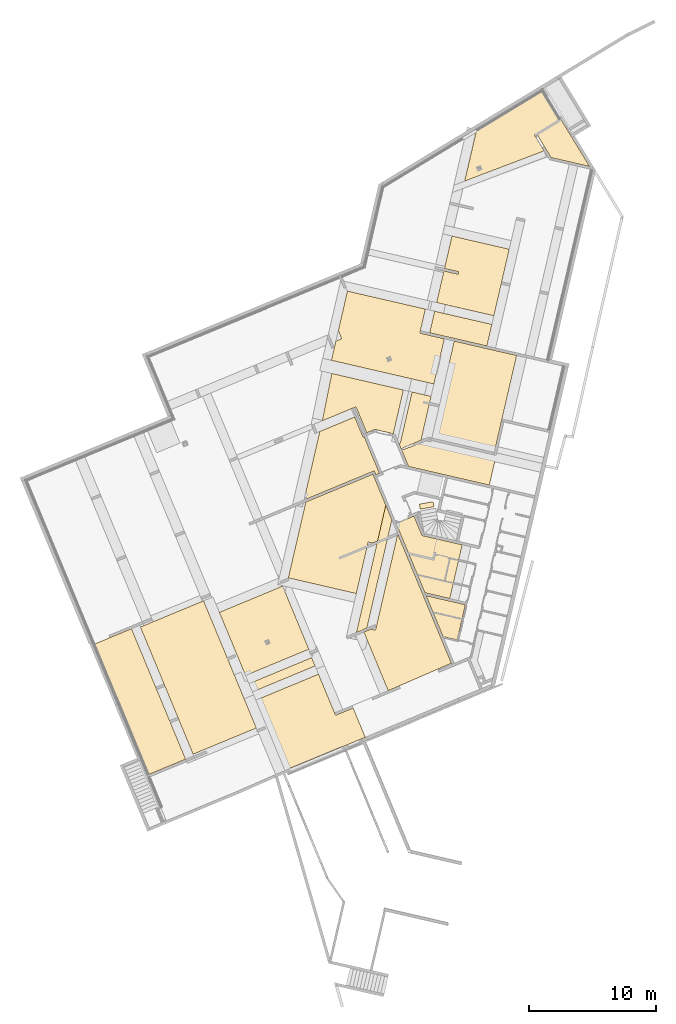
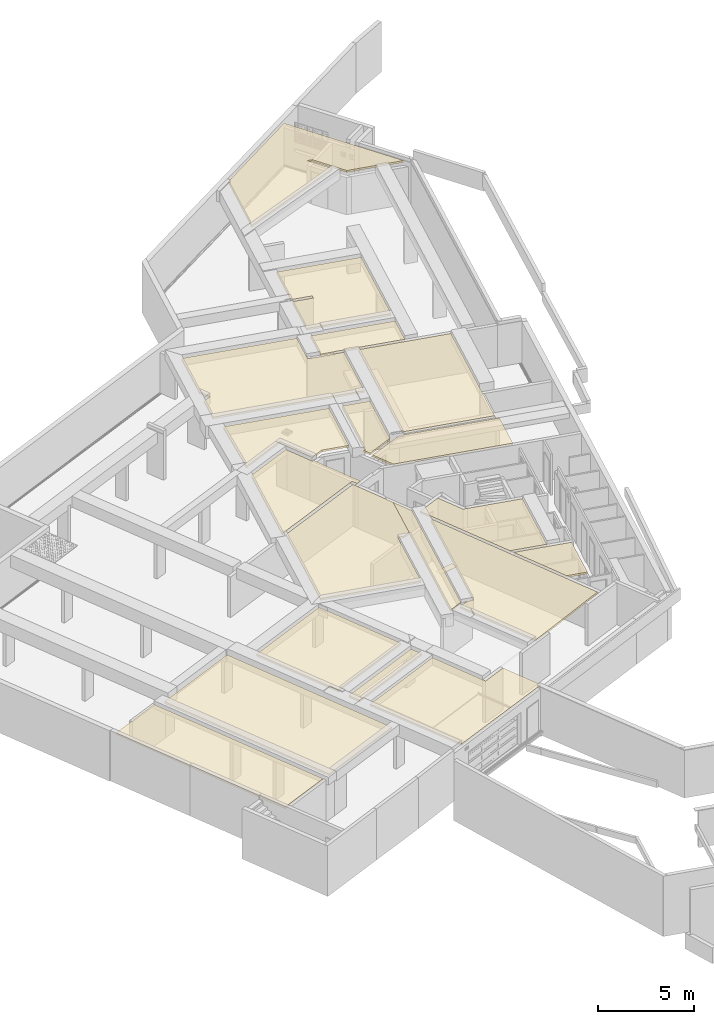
# One storey, part 13 of 20: 20 coverings.
"""IFC2X3 building model written with IfcOpenShell, lengths in metres."""

from ifc_helpers import new_model, entity, si_unit, converted_unit, derived_unit, money_unit, direction, frame, origin_with_axes, place, context, subcontext, project, spatial, faceted_brep, source, transform, mapped, material, type_object, element, save


model = new_model("IFC2X3")

# Units and contexts
model_context = context("Model", 3, precision=1e-05, world=origin_with_axes(), true_north=direction((0.0, 1.0)))
body_context = subcontext(model_context, "Body", "Model", "MODEL_VIEW")
ifc_project = project(units=[si_unit("LENGTHUNIT", "METRE"), si_unit("AREAUNIT", "SQUARE_METRE"), si_unit("VOLUMEUNIT", "CUBIC_METRE"), converted_unit("PLANEANGLEUNIT", "DEGREE", entity("IfcPlaneAngleMeasure", 0.0174532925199), si_unit("PLANEANGLEUNIT", "RADIAN"), dimensions=[0, 0, 0, 0, 0, 0, 0]), si_unit("SOLIDANGLEUNIT", "STERADIAN"), money_unit("EUR"), converted_unit("TIMEUNIT", "Year", entity("IfcTimeMeasure", 31556926.0), si_unit("TIMEUNIT", "SECOND"), dimensions=[0, 0, 1, 0, 0, 0, 0]), si_unit("MASSUNIT", "GRAM", prefix="KILO"), si_unit("THERMODYNAMICTEMPERATUREUNIT", "DEGREE_CELSIUS"), si_unit("LUMINOUSINTENSITYUNIT", "LUMEN"), si_unit("ENERGYUNIT", "JOULE", prefix="MEGA"), derived_unit("THERMALCONDUCTANCEUNIT", [(si_unit("POWERUNIT", "WATT"), 1), (si_unit("LENGTHUNIT", "METRE"), -1), (si_unit("THERMODYNAMICTEMPERATUREUNIT", "KELVIN"), -1)]), derived_unit("SPECIFICHEATCAPACITYUNIT", [(si_unit("ENERGYUNIT", "JOULE"), 1), (si_unit("MASSUNIT", "GRAM", prefix="KILO"), -1), (si_unit("THERMODYNAMICTEMPERATUREUNIT", "KELVIN"), -1)]), derived_unit("MASSDENSITYUNIT", [(si_unit("MASSUNIT", "GRAM", prefix="KILO"), 1), (si_unit("VOLUMEUNIT", "CUBIC_METRE"), -1)])], contexts=[model_context])

# Site, building, storey
site_placement = place(None, origin_with_axes())
site = spatial("IfcSite", under=ifc_project, at=site_placement, Name="Site", CompositionType="ELEMENT")
building_placement = place(site_placement, origin_with_axes())
building = spatial("IfcBuilding", under=site, at=building_placement, Name="Bâtiment", CompositionType="ELEMENT")
storey_placement = place(building_placement, frame((0.0, 0.0, -2.9), z_axis=(0.0, 0.0, 1.0), x_axis=(1.0, 0.0, 0.0)))
storey = spatial("IfcBuildingStorey", under=building, at=storey_placement, Name="Sous-sol", CompositionType="ELEMENT", Elevation=-2.9)

# Coverings
ifc_material_1 = material(Name="Plastique - PVC")
covering_type_1 = type_object("IfcCoveringType", Name="Bande Podotactile", PredefinedType="FLOORING")
shared_shape = source(origin_with_axes(), body_context, "Body", "Brep", [
    faceted_brep([(0.0, 0.4, 0.0), (0.0, 0.0, 0.0), (0.0, 0.0, 0.005), (0.0, 0.4, 0.005), (1.1, 0.4, 0.0), (1.1, 0.0, 0.0), (1.1, 0.0, 0.005), (1.1, 0.4, 0.005)], [[[0, 1, 2, 3]], [[0, 4, 5, 1]], [[1, 5, 6, 2]], [[3, 2, 6, 7]], [[4, 0, 3, 7]], [[5, 4, 7, 6]]]),
])
covering_1_placement = place(storey_placement, frame((-8.35538350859, -6.75943204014, -2.72), z_axis=(0.0, 0.0, 1.0), x_axis=(-0.984343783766, -0.176259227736, 0.0)))
element("IfcCovering", 1, at=covering_1_placement, inside=storey, type_object=covering_type_1, material=ifc_material_1, Name="Bande podotactile", PredefinedType="FLOORING", context=body_context, shape_type="MappedRepresentation", body=[
    mapped(shared_shape, transform((0.0, 0.0, 0.0))),
])
ifc_material_2 = material(Name="Isolation - FLOCAGE")
covering_type_2 = type_object("IfcCoveringType", Name="Isolation - FLOCAGE 120", PredefinedType="CEILING")
covering_2_placement = place(storey_placement, frame((0.267679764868, 25.7416892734, 2.67), z_axis=(0.0, 0.0, 1.0), x_axis=(1.0, 0.0, 0.0)))
element("IfcCovering", 2, at=covering_2_placement, inside=storey, type_object=covering_type_2, material=ifc_material_2, Name="Flocage thermique 120mm", PredefinedType="CEILING", context=body_context, shape_type="Brep", body=[
    faceted_brep([(0.0, 0.0, 0.0), (0.0, 0.0, -0.12), (-5.18237237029, -3.14982905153, -0.12), (-5.18237237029, -3.14982905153, 0.0), (3.70852969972, -6.08234171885, 0.0), (3.70852969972, -6.08234171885, -0.12), (0.675984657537, -5.382468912, -0.12), (-0.392515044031, -3.62448038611, -0.12), (-0.667300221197, -3.55744974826, -0.12), (0.127738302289, -4.85450101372, -0.12), (-6.13418710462, -7.23846431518, -0.12), (-6.13418710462, -7.23846431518, 0.0), (0.127738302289, -4.85450101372, 0.0), (-0.667300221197, -3.55744974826, 0.0), (-0.392515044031, -3.62448038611, 0.0), (0.675984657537, -5.382468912, 0.0)], [[[0, 1, 2, 3]], [[4, 5, 1, 0]], [[2, 1, 5, 6, 7, 8, 9, 10]], [[3, 2, 10, 11]], [[4, 0, 3, 11, 12, 13, 14, 15]], [[15, 6, 5, 4]], [[14, 7, 6, 15]], [[13, 8, 7, 14]], [[12, 9, 8, 13]], [[11, 10, 9, 12]]]),
])
covering_3_placement = place(storey_placement, frame((-26.4422158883, -14.5712068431, 2.52), z_axis=(0.0, 0.0, 1.0), x_axis=(1.0, 0.0, 0.0)))
element("IfcCovering", 3, at=covering_3_placement, inside=storey, type_object=covering_type_2, material=ifc_material_2, Name="Flocage thermique 120mm", PredefinedType="CEILING", context=body_context, shape_type="Brep", body=[
    faceted_brep([(0.0, 0.0, 0.0), (0.0, 0.0, -0.12), (-4.98057347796, -2.06573208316, -0.12), (-4.98057347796, -2.06573208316, 0.0), (4.15614411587, -10.0206514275, 0.0), (4.15614411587, -10.0206514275, -0.12), (-0.824429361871, -12.0863835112, -0.12), (-0.824429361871, -12.0863835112, 0.0)], [[[0, 1, 2, 3]], [[4, 5, 1, 0]], [[1, 5, 6, 2]], [[3, 2, 6, 7]], [[4, 0, 3, 7]], [[7, 6, 5, 4]]]),
])
covering_4_placement = place(storey_placement, frame((-32.1255502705, -16.7696899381, 2.67), z_axis=(0.0, 0.0, 1.0), x_axis=(1.0, 0.0, 0.0)))
element("IfcCovering", 4, at=covering_4_placement, inside=storey, type_object=covering_type_2, material=ifc_material_2, Name="Flocage thermique 120mm", PredefinedType="CEILING", context=body_context, shape_type="Brep", body=[
    faceted_brep([(0.0, 0.0, 0.0), (0.0, 0.0, -0.12), (-3.00944598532, -1.24819142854, -0.12), (-3.00944598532, -1.24819142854, 0.0), (4.26423077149, -10.2812532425, 0.0), (4.26423077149, -10.2812532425, -0.12), (1.26402180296, -11.5256135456, -0.12), (1.26402180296, -11.5256135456, 0.0)], [[[0, 1, 2, 3]], [[4, 5, 1, 0]], [[2, 1, 5, 6]], [[3, 2, 6, 7]], [[4, 0, 3, 7]], [[7, 6, 5, 4]]]),
])
covering_5_placement = place(storey_placement, frame((-25.1990074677, -15.4804793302, 2.67), z_axis=(0.0, 0.0, 1.0), x_axis=(1.0, 0.0, 0.0)))
element("IfcCovering", 5, at=covering_5_placement, inside=storey, type_object=covering_type_2, material=ifc_material_2, Name="Flocage thermique 120mm", PredefinedType="CEILING", context=body_context, shape_type="Brep", body=[
    faceted_brep([(0.0, 0.0, 0.0), (0.0, 0.0, -0.12), (2.06241103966, -4.97256629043, -0.12), (2.06241103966, -4.97256629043, 0.0), (4.98946551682, 2.06942012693, 0.0), (4.98946551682, 2.06942012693, -0.12), (7.05187652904, -2.90314609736, -0.12), (7.05187652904, -2.90314609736, 0.0)], [[[0, 1, 2, 3]], [[4, 5, 1, 0]], [[2, 1, 5, 6]], [[3, 2, 6, 7]], [[4, 0, 3, 7]], [[7, 6, 5, 4]]]),
])
covering_6_placement = place(storey_placement, frame((-22.8684176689, -21.0996367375, 2.62), z_axis=(0.0, 0.0, 1.0), x_axis=(1.0, 0.0, 0.0)))
element("IfcCovering", 6, at=covering_6_placement, inside=storey, type_object=covering_type_2, material=ifc_material_2, Name="Flocage thermique 120mm", PredefinedType="CEILING", context=body_context, shape_type="Brep", body=[
    faceted_brep([(0.0, 0.0, 0.0), (0.0, 0.0, -0.12), (0.271090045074, -0.653610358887, -0.12), (0.271090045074, -0.653610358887, 0.0), (4.94328042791, 2.05026451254, 0.0), (4.94328042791, 2.05026451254, -0.12), (5.21437047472, 1.39665414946, -0.12), (5.21437047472, 1.39665414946, 0.0)], [[[0, 1, 2, 3]], [[4, 5, 1, 0]], [[2, 1, 5, 6]], [[3, 2, 6, 7]], [[4, 0, 3, 7]], [[7, 6, 5, 4]]]),
])
covering_7_placement = place(storey_placement, frame((-22.329148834, -22.399838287, 2.67), z_axis=(0.0, 0.0, 1.0), x_axis=(1.0, 0.0, 0.0)))
element("IfcCovering", 7, at=covering_7_placement, inside=storey, type_object=covering_type_2, material=ifc_material_2, Name="Flocage thermique 120mm", PredefinedType="CEILING", context=body_context, shape_type="Brep", body=[
    faceted_brep([(0.0, 0.0, 0.0), (0.0, 0.0, -0.12), (2.35157824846, -5.52886098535, -0.12), (2.35157824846, -5.52886098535, 0.0), (4.94328040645, 2.05026456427, 0.0), (4.94328040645, 2.05026456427, -0.12), (6.28573869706, -1.190635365, -0.12), (7.67129120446, -0.615966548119, -0.12), (8.62853499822, -2.92392462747, -0.12), (8.62853499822, -2.92392462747, 0.0), (7.67129120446, -0.615966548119, 0.0), (6.28573869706, -1.190635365, 0.0)], [[[0, 1, 2, 3]], [[4, 5, 1, 0]], [[2, 1, 5, 6, 7, 8]], [[3, 2, 8, 9]], [[4, 0, 3, 9, 10, 11]], [[11, 6, 5, 4]], [[10, 7, 6, 11]], [[9, 8, 7, 10]]]),
])
covering_8_placement = place(storey_placement, frame((-19.7658096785, -12.7625850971, 2.67), z_axis=(0.0, 0.0, 1.0), x_axis=(1.0, 0.0, 0.0)))
element("IfcCovering", 8, at=covering_8_placement, inside=storey, type_object=covering_type_2, material=ifc_material_2, Name="Flocage thermique 120mm", PredefinedType="CEILING", context=body_context, shape_type="Brep", body=[
    faceted_brep([(0.0, 0.0, 0.0), (0.0, 0.0, -0.12), (5.35969781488, -1.23695005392, -0.12), (5.35969781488, -1.23695005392, 0.0), (1.37977713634, 5.97856678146, 0.0), (1.37977713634, 5.97856678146, -0.12), (6.67025166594, 8.17283276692, -0.12), (7.68524177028, 5.72564572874, -0.12), (7.03575549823, 2.9114252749, -0.12), (6.63853295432, 2.74667409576, -0.12), (6.29749738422, 2.82538076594, -0.12), (6.29749738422, 2.82538076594, 0.0), (6.63853295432, 2.74667409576, 0.0), (7.03575549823, 2.9114252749, 0.0), (7.68524177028, 5.72564572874, 0.0), (6.67025166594, 8.17283276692, 0.0)], [[[0, 1, 2, 3]], [[4, 5, 1, 0]], [[2, 1, 5, 6, 7, 8, 9, 10]], [[3, 2, 10, 11]], [[4, 0, 3, 11, 12, 13, 14, 15]], [[15, 6, 5, 4]], [[14, 7, 6, 15]], [[13, 8, 7, 14]], [[12, 9, 8, 13]], [[11, 10, 9, 12]]]),
])
covering_9_placement = place(storey_placement, frame((-17.2834219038, -1.22344633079, 2.67), z_axis=(0.0, 0.0, 1.0), x_axis=(1.0, 0.0, 0.0)))
element("IfcCovering", 9, at=covering_9_placement, inside=storey, type_object=covering_type_2, material=ifc_material_2, Name="Flocage thermique 120mm", PredefinedType="CEILING", context=body_context, shape_type="Brep", body=[
    faceted_brep([(0.0, 0.0, 0.0), (0.0, 0.0, -0.12), (-1.24717719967, -5.40401198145, -0.12), (-1.24717719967, -5.40401198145, 0.0), (2.75269632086, 1.13608815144, 0.0), (2.75269632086, 1.13608815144, -0.12), (3.40893871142, -0.446141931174, -0.12), (3.49978453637, -0.408462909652, -0.12), (4.69822462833, -3.29795617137, -0.12), (4.42332478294, -3.41197304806, -0.12), (4.29598171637, -3.10494315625, -0.12), (4.29598171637, -3.10494315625, 0.0), (4.42332478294, -3.41197304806, 0.0), (4.69822462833, -3.29795617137, 0.0), (3.49978453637, -0.408462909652, 0.0), (3.40893871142, -0.446141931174, 0.0)], [[[0, 1, 2, 3]], [[4, 5, 1, 0]], [[2, 1, 5, 6, 7, 8, 9, 10]], [[3, 2, 10, 11]], [[4, 0, 3, 11, 12, 13, 14, 15]], [[15, 6, 5, 4]], [[14, 7, 6, 15]], [[13, 8, 7, 14]], [[12, 9, 8, 13]], [[11, 10, 9, 12]]]),
])
covering_10_placement = place(storey_placement, frame((-16.3364479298, 3.34596619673, 2.67), z_axis=(0.0, 0.0, 1.0), x_axis=(1.0, 0.0, 0.0)))
element("IfcCovering", 10, at=covering_10_placement, inside=storey, type_object=covering_type_2, material=ifc_material_2, Name="Flocage thermique 120mm", PredefinedType="CEILING", context=body_context, shape_type="Brep", body=[
    faceted_brep([(0.0, 0.0, 0.0), (0.0, 0.0, -0.12), (-0.753565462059, -3.73137450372, -0.12), (-0.753565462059, -3.73137450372, 0.0), (5.64007749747, -1.30165811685, 0.0), (5.64007749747, -1.30165811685, -0.12), (4.84404779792, -4.75085043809, -0.12), (3.40277783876, -4.40976401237, -0.12), (2.75515530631, -4.67837056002, -0.12), (1.90752365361, -2.62766682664, -0.12), (1.90752365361, -2.62766682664, 0.0), (2.75515530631, -4.67837056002, 0.0), (3.40277783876, -4.40976401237, 0.0), (4.84404779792, -4.75085043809, 0.0)], [[[0, 1, 2, 3]], [[4, 5, 1, 0]], [[2, 1, 5, 6, 7, 8, 9]], [[3, 2, 9, 10]], [[4, 0, 3, 10, 11, 12, 13]], [[13, 6, 5, 4]], [[12, 7, 6, 13]], [[11, 8, 7, 12]], [[10, 9, 8, 11]]]),
])
covering_11_placement = place(storey_placement, frame((-12.8935665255, -16.8839491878, 2.67), z_axis=(0.0, 0.0, 1.0), x_axis=(1.0, 0.0, 0.0)))
element("IfcCovering", 11, at=covering_11_placement, inside=storey, type_object=covering_type_2, material=ifc_material_2, Name="Flocage thermique 120mm", PredefinedType="CEILING", context=body_context, shape_type="Brep", body=[
    faceted_brep([(0.0, 0.0, 0.0), (0.0, 0.0, -0.12), (-0.341035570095, 0.0787066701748, -0.12), (-0.341035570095, 0.0787066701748, 0.0), (1.72231843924, 7.46279634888, 0.0), (1.72231843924, 7.46279634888, -0.12), (1.7901937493, 7.4909481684, -0.12), (5.97675372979, -2.60303725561, -0.12), (0.999210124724, -4.76915161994, -0.12), (-0.916352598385, -0.15064326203, -0.12), (-0.916352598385, -0.15064326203, 0.0), (0.999210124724, -4.76915161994, 0.0), (5.97675372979, -2.60303725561, 0.0), (1.7901937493, 7.4909481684, 0.0)], [[[0, 1, 2, 3]], [[4, 5, 1, 0]], [[2, 1, 5, 6, 7, 8, 9]], [[3, 2, 9, 10]], [[4, 0, 3, 10, 11, 12, 13]], [[13, 6, 5, 4]], [[12, 7, 6, 13]], [[11, 8, 7, 12]], [[10, 9, 8, 11]]]),
])
covering_12_placement = place(storey_placement, frame((-6.06005835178, -10.1550800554, 2.67), z_axis=(0.0, 0.0, 1.0), x_axis=(1.0, 0.0, 0.0)))
element("IfcCovering", 12, at=covering_12_placement, inside=storey, type_object=covering_type_2, material=ifc_material_2, Name="Flocage thermique 120mm", PredefinedType="CEILING", context=body_context, shape_type="Brep", body=[
    faceted_brep([(0.0, 0.0, 0.0), (0.0, 0.0, -0.12), (-3.1684497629, 0.731237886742, -0.12), (-3.1684497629, 0.731237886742, 0.0), (-0.977605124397, -4.23595764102, 0.0), (-0.977605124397, -4.23595764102, -0.12), (-2.94183716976, -3.78263787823, -0.12), (-5.20949347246, 1.68478404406, -0.12), (-3.80546693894, 2.26711510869, -0.12), (-3.80546693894, 2.26711510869, 0.0), (-5.20949347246, 1.68478404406, 0.0), (-2.94183716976, -3.78263787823, 0.0)], [[[0, 1, 2, 3]], [[4, 5, 1, 0]], [[2, 1, 5, 6, 7, 8]], [[3, 2, 8, 9]], [[4, 0, 3, 9, 10, 11]], [[11, 6, 5, 4]], [[10, 7, 6, 11]], [[9, 8, 7, 10]]]),
])
covering_13_placement = place(storey_placement, frame((-8.90775197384, -14.1647022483, 2.67), z_axis=(0.0, 0.0, 1.0), x_axis=(1.0, 0.0, 0.0)))
element("IfcCovering", 13, at=covering_13_placement, inside=storey, type_object=covering_type_2, material=ifc_material_2, Name="Flocage thermique 120mm", PredefinedType="CEILING", context=body_context, shape_type="Brep", body=[
    faceted_brep([(0.0, 0.0, 0.0), (0.0, 0.0, -0.12), (1.33810737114, -3.22623737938, -0.12), (1.33810737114, -3.22623737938, 0.0), (3.09278110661, -0.713774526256, 0.0), (3.09278110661, -0.713774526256, -0.12), (2.45352635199, -3.48366188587, -0.12), (2.45352635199, -3.48366188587, 0.0)], [[[0, 1, 2, 3]], [[4, 5, 1, 0]], [[2, 1, 5, 6]], [[3, 2, 6, 7]], [[4, 0, 3, 7]], [[7, 6, 5, 4]]]),
])
covering_14_placement = place(storey_placement, frame((-11.6053145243, -8.18913648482, 2.67), z_axis=(0.0, 0.0, 1.0), x_axis=(1.0, 0.0, 0.0)))
element("IfcCovering", 14, at=covering_14_placement, inside=storey, type_object=covering_type_2, material=ifc_material_2, Name="Flocage thermique 120mm", PredefinedType="CEILING", context=body_context, shape_type="Brep", body=[
    faceted_brep([(0.0, 0.0, 0.0), (0.0, 0.0, -0.12), (-0.475253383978, 1.15219711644, -0.12), (-0.475253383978, 1.15219711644, 0.0), (-1.97032314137, -8.53739936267, 0.0), (-1.97032314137, -8.53739936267, -0.12), (-2.78850594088, -8.87111352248, -0.12), (-2.78850594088, -8.87111352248, 0.0)], [[[0, 1, 2, 3]], [[4, 5, 1, 0]], [[2, 1, 5, 6]], [[3, 2, 6, 7]], [[4, 0, 3, 7]], [[7, 6, 5, 4]]]),
])
covering_15_placement = place(storey_placement, frame((-15.1080966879, 9.83866956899, 2.67), z_axis=(0.0, 0.0, 1.0), x_axis=(1.0, 0.0, 0.0)))
element("IfcCovering", 15, at=covering_15_placement, inside=storey, type_object=covering_type_2, material=ifc_material_2, Name="Flocage thermique 120mm", PredefinedType="CEILING", context=body_context, shape_type="Brep", body=[
    faceted_brep([(0.0, 0.0, 0.0), (0.0, 0.0, -0.12), (-0.714086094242, -3.10818469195, -0.12), (-0.714086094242, -3.10818469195, 0.0), (6.14379177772, -1.41790908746, 0.0), (6.14379177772, -1.41790908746, -0.12), (5.70724566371, -3.31456803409, -0.12), (7.63750885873, -3.76004821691, -0.12), (6.81527477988, -7.32278396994, -0.12), (-1.25989926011, -5.45913658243, -0.12), (-0.911081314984, -3.94771044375, -0.12), (-0.445907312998, -3.75477586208, -0.12), (-0.445907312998, -3.75477586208, 0.0), (-0.911081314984, -3.94771044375, 0.0), (-1.25989926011, -5.45913658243, 0.0), (6.81527477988, -7.32278396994, 0.0), (7.63750885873, -3.76004821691, 0.0), (5.70724566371, -3.31456803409, 0.0)], [[[0, 1, 2, 3]], [[4, 5, 1, 0]], [[2, 1, 5, 6, 7, 8, 9, 10, 11]], [[3, 2, 11, 12]], [[4, 0, 3, 12, 13, 14, 15, 16, 17]], [[17, 6, 5, 4]], [[16, 7, 6, 17]], [[15, 8, 7, 16]], [[14, 9, 8, 15]], [[13, 10, 9, 14]], [[12, 11, 10, 13]]]),
])
covering_16_placement = place(storey_placement, frame((-10.014299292, 1.88689474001, 2.67), z_axis=(0.0, 0.0, 1.0), x_axis=(1.0, 0.0, 0.0)))
element("IfcCovering", 16, at=covering_16_placement, inside=storey, type_object=covering_type_2, material=ifc_material_2, Name="Flocage thermique 120mm", PredefinedType="CEILING", context=body_context, shape_type="Brep", body=[
    faceted_brep([(0.0, 0.0, 0.0), (0.0, 0.0, -0.12), (-0.937632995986, -4.0627586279, -0.12), (-0.937632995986, -4.0627586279, 0.0), (1.49660116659, -0.345396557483, 0.0), (1.49660116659, -0.345396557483, -0.12), (0.709930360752, -3.80520314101, -0.12), (-0.865342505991, -4.45855997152, -0.12), (-1.03922909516, -4.03931154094, -0.12), (-1.03922909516, -4.03931154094, 0.0), (-0.865342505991, -4.45855997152, 0.0), (0.709930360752, -3.80520314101, 0.0)], [[[0, 1, 2, 3]], [[4, 5, 1, 0]], [[2, 1, 5, 6, 7, 8]], [[3, 2, 8, 9]], [[4, 0, 3, 9, 10, 11]], [[11, 6, 5, 4]], [[10, 7, 6, 11]], [[9, 8, 7, 10]]]),
])
covering_17_placement = place(storey_placement, frame((-6.69107795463, 5.89872039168, 2.67), z_axis=(0.0, 0.0, 1.0), x_axis=(1.0, 0.0, 0.0)))
element("IfcCovering", 17, at=covering_17_placement, inside=storey, type_object=covering_type_2, material=ifc_material_2, Name="Flocage thermique 120mm", PredefinedType="CEILING", context=body_context, shape_type="Brep", body=[
    faceted_brep([(0.0, 0.0, 0.0), (0.0, 0.0, -0.12), (-1.76257966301, -7.63724801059, -0.12), (-1.76257966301, -7.63724801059, 0.0), (4.91936625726, -1.13532713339, 0.0), (4.91936625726, -1.13532713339, -0.12), (3.15678659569, -8.77257514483, -0.12), (3.15678659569, -8.77257514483, 0.0)], [[[0, 1, 2, 3]], [[4, 5, 1, 0]], [[2, 1, 5, 6]], [[3, 2, 6, 7]], [[4, 0, 3, 7]], [[7, 6, 5, 4]]]),
])
covering_18_placement = place(storey_placement, frame((-3.38438913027, -3.11370746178, 2.62), z_axis=(0.0, 0.0, 1.0), x_axis=(1.0, 0.0, 0.0)))
element("IfcCovering", 18, at=covering_18_placement, inside=storey, type_object=covering_type_2, material=ifc_material_2, Name="Flocage thermique 120mm", PredefinedType="CEILING", context=body_context, shape_type="Brep", body=[
    faceted_brep([(0.0, 0.0, 0.0), (0.0, 0.0, -0.12), (-5.31990238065, 1.22776577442, -0.12), (-5.31990238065, 1.22776577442, 0.0), (-0.540314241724, -2.34117865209, 0.0), (-0.540314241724, -2.34117865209, -0.12), (-6.90903322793, -0.871359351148, -0.12), (-7.43923045, 0.406970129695, -0.12), (-5.5304883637, 1.15547313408, -0.12), (-5.5304883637, 1.15547313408, 0.0), (-7.43923045, 0.406970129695, 0.0), (-6.90903322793, -0.871359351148, 0.0)], [[[0, 1, 2, 3]], [[4, 5, 1, 0]], [[2, 1, 5, 6, 7, 8]], [[3, 2, 8, 9]], [[4, 0, 3, 9, 10, 11]], [[11, 6, 5, 4]], [[10, 7, 6, 11]], [[9, 8, 7, 10]]]),
])
covering_19_placement = place(storey_placement, frame((-6.86504192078, 14.1765800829, 2.67), z_axis=(0.0, 0.0, 1.0), x_axis=(1.0, 0.0, 0.0)))
element("IfcCovering", 19, at=covering_19_placement, inside=storey, type_object=covering_type_2, material=ifc_material_2, Name="Flocage thermique 120mm", PredefinedType="CEILING", context=body_context, shape_type="Brep", body=[
    faceted_brep([(0.0, 0.0, 0.0), (0.0, 0.0, -0.12), (-0.59411813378, -2.5591055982, -0.12), (-0.59411813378, -2.5591055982, 0.0), (4.50867079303, -1.04054384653, 0.0), (4.50867079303, -1.04054384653, -0.12), (3.29873070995, -6.28320759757, -0.12), (-1.21219006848, -5.24526847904, -0.12), (-0.637156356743, -2.75365055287, -0.12), (0.486548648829, -3.01298736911, -0.12), (0.531523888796, -2.81810990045, -0.12), (0.531523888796, -2.81810990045, 0.0), (0.486548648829, -3.01298736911, 0.0), (-0.637156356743, -2.75365055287, 0.0), (-1.21219006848, -5.24526847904, 0.0), (3.29873070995, -6.28320759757, 0.0)], [[[0, 1, 2, 3]], [[4, 5, 1, 0]], [[2, 1, 5, 6, 7, 8, 9, 10]], [[3, 2, 10, 11]], [[4, 0, 3, 11, 12, 13, 14, 15]], [[15, 6, 5, 4]], [[14, 7, 6, 15]], [[13, 8, 7, 14]], [[12, 9, 8, 13]], [[11, 10, 9, 12]]]),
])
covering_20_placement = place(storey_placement, frame((-3.72372455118, 7.21130134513, 2.67), z_axis=(0.0, 0.0, 1.0), x_axis=(1.0, 0.0, 0.0)))
element("IfcCovering", 20, at=covering_20_placement, inside=storey, type_object=covering_type_2, material=ifc_material_2, Name="Flocage thermique 120mm", PredefinedType="CEILING", context=body_context, shape_type="Brep", body=[
    faceted_brep([(0.0, 0.0, 0.0), (0.0, 0.0, -0.12), (-4.51047216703, 1.03783589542, -0.12), (-4.51047216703, 1.03783589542, 0.0), (-0.392689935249, -1.7015233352, 0.0), (-0.392689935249, -1.7015233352, -0.12), (-4.90130534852, -0.660739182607, -0.12), (-4.90130534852, -0.660739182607, 0.0)], [[[0, 1, 2, 3]], [[4, 5, 1, 0]], [[2, 1, 5, 6]], [[3, 2, 6, 7]], [[4, 0, 3, 7]], [[7, 6, 5, 4]]]),
])

save(model, "model.ifc")
